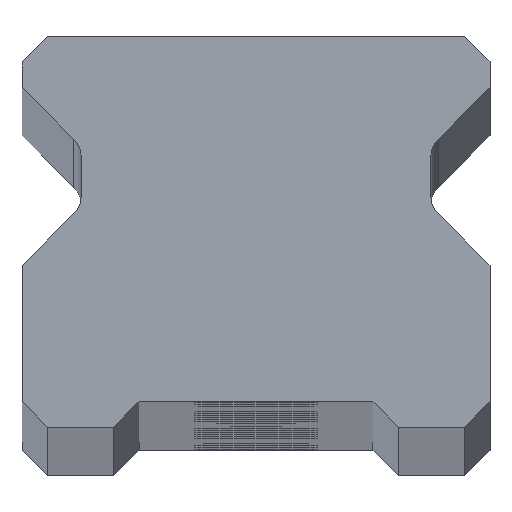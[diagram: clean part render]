
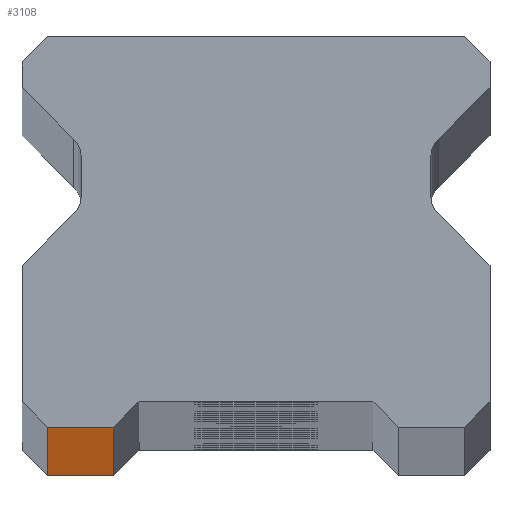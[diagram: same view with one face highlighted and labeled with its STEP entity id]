
A CAD part, top view. The second image highlights one B-rep face of the part: STEP entity #3108.
In plain terms, the highlighted planar face has unit normal (0, -1, 0).
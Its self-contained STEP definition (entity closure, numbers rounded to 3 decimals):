
#48 = LINE ( 'NONE', #193, #231 ) ;
#193 = CARTESIAN_POINT ( 'NONE',  ( 11.5, 0., -680. ) ) ;
#230 = FACE_OUTER_BOUND ( 'NONE', #3020, .T. ) ;
#231 = VECTOR ( 'NONE', #1766, 1000. ) ;
#288 = LINE ( 'NONE', #4703, #3815 ) ;
#614 = CARTESIAN_POINT ( 'NONE',  ( -10.25, 0., 680. ) ) ;
#712 = ORIENTED_EDGE ( 'NONE', *, *, #2363, .F. ) ;
#938 = VERTEX_POINT ( 'NONE', #3838 ) ;
#996 = ORIENTED_EDGE ( 'NONE', *, *, #3885, .T. ) ;
#1061 = DIRECTION ( 'NONE',  ( 0., 0., -1. ) ) ;
#1067 = CARTESIAN_POINT ( 'NONE',  ( -10.25, 0., -680. ) ) ;
#1501 = DIRECTION ( 'NONE',  ( 0., 1., 0. ) ) ;
#1766 = DIRECTION ( 'NONE',  ( 1., 0., 0. ) ) ;
#1808 = ORIENTED_EDGE ( 'NONE', *, *, #3239, .T. ) ;
#1855 = CARTESIAN_POINT ( 'NONE',  ( 11.5, 0., 680. ) ) ;
#1908 = CARTESIAN_POINT ( 'NONE',  ( -7., 0., -680. ) ) ;
#2363 = EDGE_CURVE ( 'NONE', #2778, #938, #5134, .T. ) ;
#2676 = LINE ( 'NONE', #1908, #4758 ) ;
#2778 = VERTEX_POINT ( 'NONE', #614 ) ;
#2909 = AXIS2_PLACEMENT_3D ( 'NONE', #1855, #1501, #4697 ) ;
#3020 = EDGE_LOOP ( 'NONE', ( #996, #5008, #712, #1808 ) ) ;
#3076 = DIRECTION ( 'NONE',  ( 0., 0., 1. ) ) ;
#3108 = ADVANCED_FACE ( 'NONE', ( #230 ), #3869, .F. ) ;
#3239 = EDGE_CURVE ( 'NONE', #2778, #4579, #288, .T. ) ;
#3754 = EDGE_CURVE ( 'NONE', #4841, #938, #2676, .T. ) ;
#3815 = VECTOR ( 'NONE', #1061, 1000. ) ;
#3838 = CARTESIAN_POINT ( 'NONE',  ( -7., 0., 680. ) ) ;
#3869 = PLANE ( 'NONE',  #2909 ) ;
#3885 = EDGE_CURVE ( 'NONE', #4579, #4841, #48, .T. ) ;
#4184 = CARTESIAN_POINT ( 'NONE',  ( -7., 0., -680. ) ) ;
#4532 = DIRECTION ( 'NONE',  ( 1., 0., 0. ) ) ;
#4579 = VERTEX_POINT ( 'NONE', #1067 ) ;
#4697 = DIRECTION ( 'NONE',  ( -1., 0., 0. ) ) ;
#4703 = CARTESIAN_POINT ( 'NONE',  ( -10.25, 0., 680. ) ) ;
#4758 = VECTOR ( 'NONE', #3076, 1000. ) ;
#4841 = VERTEX_POINT ( 'NONE', #4184 ) ;
#4880 = VECTOR ( 'NONE', #4532, 1000. ) ;
#4896 = CARTESIAN_POINT ( 'NONE',  ( 11.5, 0., 680. ) ) ;
#5008 = ORIENTED_EDGE ( 'NONE', *, *, #3754, .T. ) ;
#5134 = LINE ( 'NONE', #4896, #4880 ) ;
